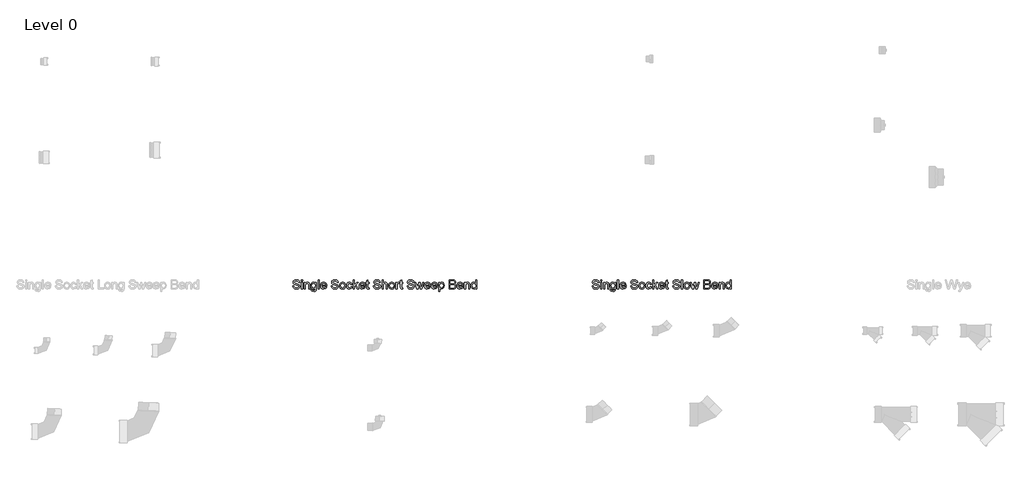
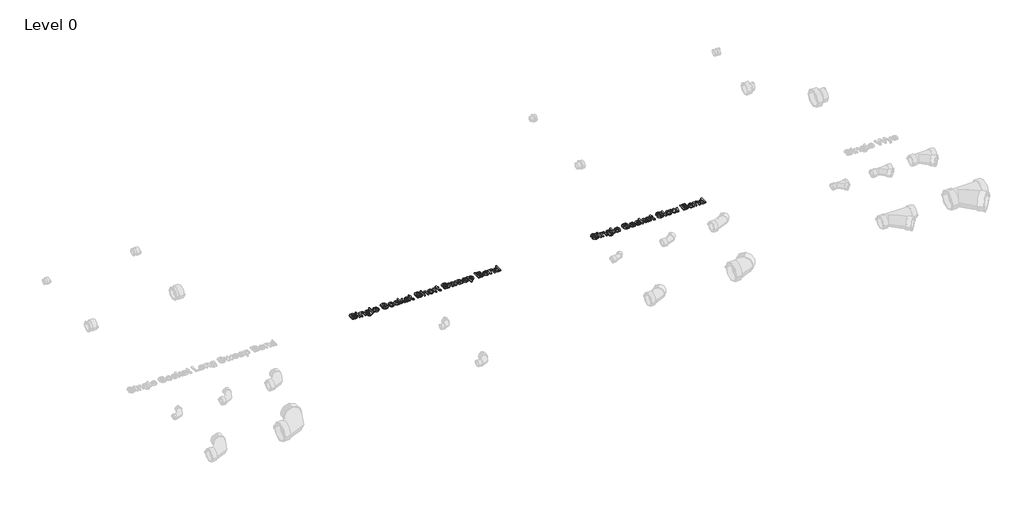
# One storey, part 3 of 10: 2 proxies.
"""IFC4 building model written with IfcOpenShell, lengths in millimetres."""

from ifc_helpers import new_model, si_unit, origin, origin_with_axes, place, context, project, spatial, polyline, outline, extrude, element, save

model = new_model("IFC4")

# Units and contexts
model_context = context("Model", 3, world=origin())
ifc_project = project(units=[si_unit("LENGTHUNIT", "METRE", prefix="MILLI")], contexts=[model_context])

# Site, building, storey
site = spatial("IfcSite", under=ifc_project)
building = spatial("IfcBuilding", under=site)
storey = spatial("IfcBuildingStorey", under=building, Name="Level 0", Elevation=0.0)

# Proxies
placement = place(None, origin())
element("IfcBuildingElementProxy", 1, Name="75mm Arial", ObjectType="75mm Arial", at=placement, inside=storey, context=model_context, shape_type="SweptSolid", body=[
    extrude(outline(polyline([(-852.0232569, -1117.9910672), (-842.7924877, -1117.9910672), (-839.8177281, -1127.2308508), (-832.5521031, -1133.072197), (-821.4823916, -1135.2987595), (-811.8369589, -1133.6130623), (-805.6079925, -1128.9796489), (-803.5617185, -1122.7867402), (-805.0941704, -1117.0265239), (-811.3682089, -1112.8348172), (-824.8087137, -1109.3101777), (-839.2768627, -1104.7578941), (-847.1284252, -1097.8889037), (-849.7155646, -1088.712221), (-846.5154444, -1078.2645047), (-837.1674877, -1070.8907066), (-823.4835935, -1068.3756825), (-808.8802281, -1071.0078941), (-799.1446512, -1078.7422691), (-795.4847954, -1090.2987595), (-804.7155646, -1090.2987595), (-809.94393, -1080.8155864), (-823.1230166, -1077.6064518), (-836.3381608, -1080.7795287), (-840.4847954, -1088.4417883), (-837.5460935, -1094.8420287), (-822.4739781, -1099.9982787), (-806.1398435, -1104.6316922), (-797.2065502, -1112.1136633), (-794.3309492, -1122.5523652), (-797.6392425, -1133.5950335), (-807.1584733, -1141.6539277), (-821.1218146, -1144.5295287), (-837.6091944, -1141.4285672), (-848.0388819, -1132.0896248), (-852.0232569, -1117.9910672)])), origin_with_axes(), (0.0, 0.0, 1.0), 10.0),
    extrude(outline(polyline([(-781.6386416, -1143.3756825), (-781.6386416, -1089.1449133), (-772.4078723, -1089.1449133), (-772.4078723, -1143.3756825), (-781.6386416, -1143.3756825)])), origin_with_axes(), (0.0, 0.0, 1.0), 10.0),
    extrude(outline(polyline([(-781.6386416, -1078.7602979), (-781.6386416, -1069.5295287), (-772.4078723, -1069.5295287), (-772.4078723, -1078.7602979), (-781.6386416, -1078.7602979)])), origin_with_axes(), (0.0, 0.0, 1.0), 10.0),
    extrude(outline(polyline([(-758.5617185, -1143.3756825), (-758.5617185, -1089.1449133), (-749.3309492, -1089.1449133), (-749.3309492, -1096.7170287), (-742.272656, -1090.1725575), (-732.6362377, -1087.9910672), (-723.9192906, -1089.7488797), (-717.9697714, -1094.3642643), (-715.2023435, -1101.1521248), (-714.7155646, -1110.0764037), (-714.7155646, -1143.3756825), (-723.9463339, -1143.3756825), (-723.9463339, -1111.3203941), (-725.0100358, -1103.1533268), (-728.7690502, -1098.8354181), (-735.1061896, -1097.2218364), (-745.1212137, -1100.8456345), (-749.3309492, -1114.6016441), (-749.3309492, -1143.3756825), (-758.5617185, -1143.3756825)])), origin_with_axes(), (0.0, 0.0, 1.0), 10.0),
    extrude(outline(polyline([(-704.3309492, -1147.9910672), (-695.10018, -1149.1449133), (-692.1073916, -1154.0127018), (-683.147055, -1156.0679902), (-673.6999396, -1153.7422691), (-669.1927281, -1147.2158268), (-668.5617185, -1136.4526056), (-675.0611175, -1141.6449133), (-682.9847954, -1143.3756825), (-692.5017726, -1141.360959), (-699.5983771, -1135.3167883), (-704.0131908, -1126.4556104), (-705.4847954, -1115.9898652), (-702.8435694, -1101.6839758), (-695.1993387, -1091.5607787), (-683.4355166, -1087.9910672), (-675.2008411, -1090.0102979), (-668.5617185, -1096.0679902), (-668.5617185, -1089.1449133), (-659.3309492, -1089.1449133), (-659.3309492, -1135.9658268), (-661.8549877, -1153.8955143), (-669.850781, -1162.2338556), (-683.3273435, -1165.2987595), (-698.678906, -1160.9808508), (-703.0170971, -1155.5744506), (-704.3309492, -1147.9910672)]), holes=[polyline([(-696.2540262, -1115.3588556), (-692.3147233, -1129.6467162), (-682.4259012, -1134.1449133), (-672.5551079, -1129.6737595), (-668.5617185, -1115.6292883), (-672.6722954, -1101.8642643), (-682.5701319, -1097.2218364), (-692.2606367, -1101.7921489), (-696.2540262, -1115.3588556)])]), origin_with_axes(), (0.0, 0.0, 1.0), 10.0),
    extrude(outline(polyline([(-645.4847954, -1143.3756825), (-645.4847954, -1069.5295287), (-636.2540262, -1069.5295287), (-636.2540262, -1143.3756825), (-645.4847954, -1143.3756825)])), origin_with_axes(), (0.0, 0.0, 1.0), 10.0),
    extrude(outline(polyline([(-584.4391223, -1127.2218364), (-575.3886416, -1128.3756825), (-583.8531848, -1140.2927498), (-599.6194108, -1144.5295287), (-610.4502401, -1142.7018544), (-618.7840742, -1137.2188316), (-624.0980767, -1128.4365299), (-625.8694108, -1116.7110191), (-624.0800478, -1104.5911272), (-618.7119589, -1095.5271248), (-610.490805, -1089.8750816), (-600.1422473, -1087.9910672), (-590.1159553, -1089.8705744), (-582.1043867, -1095.509096), (-576.8512317, -1104.5550696), (-575.10018, -1116.6569325), (-575.1542666, -1119.1449133), (-616.6386416, -1119.1449133), (-611.3291464, -1131.134096), (-599.4391223, -1135.2987595), (-590.3886416, -1133.3696729), (-584.4391223, -1127.2218364)]), holes=[polyline([(-616.6386416, -1109.9141441), (-584.3309492, -1109.9141441), (-588.0268627, -1101.5487595), (-600.178305, -1097.2218364), (-611.5454925, -1100.6743604), (-616.6386416, -1109.9141441)])]), origin_with_axes(), (0.0, 0.0, 1.0), 10.0),
    extrude(outline(polyline([(-539.3309492, -1117.9910672), (-530.10018, -1117.9910672), (-527.1254204, -1127.2308508), (-519.8597954, -1133.072197), (-508.7900839, -1135.2987595), (-499.1446512, -1133.6130623), (-492.9156848, -1128.9796489), (-490.8694108, -1122.7867402), (-492.4018627, -1117.0265239), (-498.6759012, -1112.8348172), (-512.116406, -1109.3101777), (-526.584555, -1104.7578941), (-534.4361175, -1097.8889037), (-537.0232569, -1088.712221), (-533.8231367, -1078.2645047), (-524.47518, -1070.8907066), (-510.7912858, -1068.3756825), (-496.1879204, -1071.0078941), (-486.4523435, -1078.7422691), (-482.7924877, -1090.2987595), (-492.0232569, -1090.2987595), (-497.2516223, -1080.8155864), (-510.4307089, -1077.6064518), (-523.6458531, -1080.7795287), (-527.7924877, -1088.4417883), (-524.8537858, -1094.8420287), (-509.7816704, -1099.9982787), (-493.4475358, -1104.6316922), (-484.5142425, -1112.1136633), (-481.6386416, -1122.5523652), (-484.9469348, -1133.5950335), (-494.4661656, -1141.6539277), (-508.4295069, -1144.5295287), (-524.9168867, -1141.4285672), (-535.3465742, -1132.0896248), (-539.3309492, -1117.9910672)])), origin_with_axes(), (0.0, 0.0, 1.0), 10.0),
    extrude(outline(polyline([(-471.2540262, -1116.2602979), (-469.2573315, -1103.1848772), (-463.2672473, -1093.9946729), (-455.866406, -1089.4919686), (-447.0052281, -1087.9910672), (-437.3079625, -1089.8187414), (-429.5623194, -1095.3017643), (-424.4849456, -1104.0074434), (-422.7924877, -1115.5030864), (-425.7852762, -1131.9273652), (-434.5022233, -1141.2212354), (-447.0052281, -1144.5295287), (-456.8196812, -1142.7086152), (-464.5563098, -1137.2458748), (-469.5795971, -1128.3576537), (-471.2540262, -1116.2602979)]), holes=[polyline([(-462.0232569, -1116.2422691), (-457.7504204, -1130.5481585), (-447.0052281, -1135.2987595), (-436.2960935, -1130.5211152), (-432.0232569, -1115.9538075), (-436.3231367, -1101.9724373), (-447.0052281, -1097.2218364), (-457.7504204, -1101.9544085), (-462.0232569, -1116.2422691)])]), origin_with_axes(), (0.0, 0.0, 1.0), 10.0),
    extrude(outline(polyline([(-377.7924877, -1123.7602979), (-368.5617185, -1124.9141441), (-375.9715742, -1139.3282066), (-390.6109973, -1144.5295287), (-400.4299577, -1142.715376), (-408.1079925, -1137.2729181), (-413.0636716, -1128.4410371), (-414.7155646, -1116.4586152), (-411.8940502, -1101.1250816), (-403.2942906, -1091.2723172), (-390.7371992, -1087.9910672), (-376.7017425, -1092.4982787), (-369.7155646, -1105.2987595), (-378.9463339, -1106.4526056), (-383.2281848, -1099.5385431), (-390.6650839, -1097.2218364), (-401.3652041, -1101.7831345), (-405.4847954, -1116.2062114), (-401.4553483, -1130.7645047), (-390.9174877, -1135.2987595), (-382.2185694, -1132.4682306), (-377.7924877, -1123.7602979)])), origin_with_axes(), (0.0, 0.0, 1.0), 10.0),
    extrude(outline(polyline([(-360.4847954, -1143.3756825), (-360.4847954, -1069.5295287), (-351.2540262, -1069.5295287), (-351.2540262, -1109.2110191), (-330.5569108, -1089.1449133), (-317.7924877, -1089.1449133), (-338.7420069, -1109.4634229), (-316.6386416, -1143.3756825), (-327.4198916, -1143.3756825), (-345.3585935, -1115.8816922), (-351.2540262, -1121.5968364), (-351.2540262, -1143.3756825), (-360.4847954, -1143.3756825)])), origin_with_axes(), (0.0, 0.0, 1.0), 10.0),
    extrude(outline(polyline([(-270.5929685, -1127.2218364), (-261.5424877, -1128.3756825), (-270.007031, -1140.2927498), (-285.7732569, -1144.5295287), (-296.6040863, -1142.7018544), (-304.9379204, -1137.2188316), (-310.2519228, -1128.4365299), (-312.0232569, -1116.7110191), (-310.233894, -1104.5911272), (-304.865805, -1095.5271248), (-296.6446512, -1089.8750816), (-286.2960935, -1087.9910672), (-276.2698014, -1089.8705744), (-268.2582329, -1095.509096), (-263.0050779, -1104.5550696), (-261.2540262, -1116.6569325), (-261.3081127, -1119.1449133), (-302.7924877, -1119.1449133), (-297.4829925, -1131.134096), (-285.5929685, -1135.2987595), (-276.5424877, -1133.3696729), (-270.5929685, -1127.2218364)]), holes=[polyline([(-302.7924877, -1109.9141441), (-270.4847954, -1109.9141441), (-274.1807089, -1101.5487595), (-286.3321512, -1097.2218364), (-297.6993387, -1100.6743604), (-302.7924877, -1109.9141441)])]), origin_with_axes(), (0.0, 0.0, 1.0), 10.0),
    extrude(outline(polyline([(-232.4078723, -1135.6773652), (-231.2540262, -1143.6461152), (-238.1590742, -1144.5295287), (-245.8934492, -1142.9970768), (-249.7516223, -1138.9766441), (-250.8694108, -1128.5018845), (-250.8694108, -1098.3756825), (-257.7924877, -1098.3756825), (-257.7924877, -1089.1449133), (-250.8694108, -1089.1449133), (-250.8694108, -1075.9658268), (-241.6386416, -1070.5391441), (-241.6386416, -1089.1449133), (-232.4078723, -1089.1449133), (-232.4078723, -1098.3756825), (-241.6386416, -1098.3756825), (-241.6386416, -1128.2314518), (-241.1518627, -1132.9910672), (-239.5743387, -1134.6767643), (-236.428305, -1135.2987595), (-232.4078723, -1135.6773652)])), origin_with_axes(), (0.0, 0.0, 1.0), 10.0),
    extrude(outline(polyline([(-196.6386416, -1117.9910672), (-187.4078723, -1117.9910672), (-184.4331127, -1127.2308508), (-177.1674877, -1133.072197), (-166.0977762, -1135.2987595), (-156.4523435, -1133.6130623), (-150.2233771, -1128.9796489), (-148.1771031, -1122.7867402), (-149.709555, -1117.0265239), (-155.9835935, -1112.8348172), (-169.4240983, -1109.3101777), (-183.8922473, -1104.7578941), (-191.7438098, -1097.8889037), (-194.3309492, -1088.712221), (-191.1308291, -1078.2645047), (-181.7828723, -1070.8907066), (-168.0989781, -1068.3756825), (-153.4956127, -1071.0078941), (-143.7600358, -1078.7422691), (-140.10018, -1090.2987595), (-149.3309492, -1090.2987595), (-154.5593146, -1080.8155864), (-167.7384012, -1077.6064518), (-180.9535454, -1080.7795287), (-185.10018, -1088.4417883), (-182.1614781, -1094.8420287), (-167.0893627, -1099.9982787), (-150.7552281, -1104.6316922), (-141.8219348, -1112.1136633), (-138.9463339, -1122.5523652), (-142.2546271, -1133.5950335), (-151.7738579, -1141.6539277), (-165.7371992, -1144.5295287), (-182.2245791, -1141.4285672), (-192.6542666, -1132.0896248), (-196.6386416, -1117.9910672)])), origin_with_axes(), (0.0, 0.0, 1.0), 10.0),
    extrude(outline(polyline([(-126.2540262, -1143.3756825), (-126.2540262, -1069.5295287), (-117.0232569, -1069.5295287), (-117.0232569, -1143.3756825), (-126.2540262, -1143.3756825)])), origin_with_axes(), (0.0, 0.0, 1.0), 10.0),
    extrude(outline(polyline([(-105.4847954, -1116.2602979), (-103.4881007, -1103.1848772), (-97.4980166, -1093.9946729), (-90.0971752, -1089.4919686), (-81.2359973, -1087.9910672), (-71.5387317, -1089.8187414), (-63.7930887, -1095.3017643), (-58.7157149, -1104.0074434), (-57.0232569, -1115.5030864), (-60.0160454, -1131.9273652), (-68.7329925, -1141.2212354), (-81.2359973, -1144.5295287), (-91.0504504, -1142.7086152), (-98.7870791, -1137.2458748), (-103.8103663, -1128.3576537), (-105.4847954, -1116.2602979)]), holes=[polyline([(-96.2540262, -1116.2422691), (-91.9811896, -1130.5481585), (-81.2359973, -1135.2987595), (-70.5268627, -1130.5211152), (-66.2540262, -1115.9538075), (-70.553906, -1101.9724373), (-81.2359973, -1097.2218364), (-91.9811896, -1101.9544085), (-96.2540262, -1116.2422691)])]), origin_with_axes(), (0.0, 0.0, 1.0), 10.0),
    extrude(outline(polyline([(-37.6422473, -1143.3756825), (-54.1386416, -1089.1449133), (-44.5472954, -1089.1449133), (-35.1903242, -1120.7855383), (-32.3958531, -1132.0896248), (-30.1061896, -1121.2002018), (-22.6602762, -1089.1449133), (-11.66268, -1089.1449133), (-4.2528242, -1121.1100575), (-2.2155646, -1130.9718364), (0.7051084, -1120.5691922), (10.0801084, -1089.1449133), (19.7075123, -1089.1449133), (3.0849161, -1143.3756825), (-8.0749396, -1143.3756825), (-15.1602762, -1111.5727979), (-17.2155646, -1101.6569325), (-26.3561896, -1143.3756825), (-37.6422473, -1143.3756825)])), origin_with_axes(), (0.0, 0.0, 1.0), 10.0),
    extrude(outline(polyline([(56.0536661, -1143.3756825), (56.0536661, -1069.5295287), (84.2327527, -1069.5295287), (98.0338344, -1071.7020047), (106.1828729, -1078.3816922), (109.1305892, -1087.8288075), (106.6516229, -1096.4556104), (99.1606373, -1102.9910672), (108.2561902, -1109.8780864), (111.4382815, -1121.3624614), (109.2658056, -1131.2873412), (103.884195, -1138.3546489), (95.852344, -1142.1046489), (84.0164065, -1143.3756825), (56.0536661, -1143.3756825)]), holes=[polyline([(65.2844354, -1099.5295287), (82.1414065, -1099.5295287), (91.9851565, -1098.7362595), (97.9076325, -1095.3197931), (99.89982, -1089.3071729), (98.0428488, -1083.2855383), (92.7243392, -1079.7248412), (80.8613584, -1078.7602979), (65.2844354, -1078.7602979), (65.2844354, -1099.5295287)]), polyline([(65.2844354, -1134.1449133), (84.2147238, -1134.1449133), (91.0656854, -1133.7843364), (96.8619594, -1131.77412), (100.7021036, -1127.6725575), (102.2075123, -1121.4526056), (100.4406854, -1114.2771248), (94.7165267, -1109.9952739), (83.3132815, -1108.7602979), (65.2844354, -1108.7602979), (65.2844354, -1134.1449133)])]), origin_with_axes(), (0.0, 0.0, 1.0), 10.0),
    extrude(outline(polyline([(160.9454931, -1127.2218364), (169.9959738, -1128.3756825), (161.5314306, -1140.2927498), (145.7652046, -1144.5295287), (134.9343753, -1142.7018544), (126.6005411, -1137.2188316), (121.2865387, -1128.4365299), (119.5152046, -1116.7110191), (121.3045676, -1104.5911272), (126.6726565, -1095.5271248), (134.8938104, -1089.8750816), (145.2423681, -1087.9910672), (155.2686601, -1089.8705744), (163.2802286, -1095.509096), (168.5333837, -1104.5550696), (170.2844354, -1116.6569325), (170.2303488, -1119.1449133), (128.7459738, -1119.1449133), (134.055469, -1131.134096), (145.9454931, -1135.2987595), (154.9959738, -1133.3696729), (160.9454931, -1127.2218364)]), holes=[polyline([(128.7459738, -1109.9141441), (161.0536661, -1109.9141441), (157.3577527, -1101.5487595), (145.2063104, -1097.2218364), (133.8391229, -1100.6743604), (128.7459738, -1109.9141441)])]), origin_with_axes(), (0.0, 0.0, 1.0), 10.0),
    extrude(outline(polyline([(179.5152046, -1143.3756825), (179.5152046, -1089.1449133), (188.7459738, -1089.1449133), (188.7459738, -1096.7170287), (195.8042671, -1090.1725575), (205.4406854, -1087.9910672), (214.1576325, -1089.7488797), (220.1071517, -1094.3642643), (222.8745796, -1101.1521248), (223.3613584, -1110.0764037), (223.3613584, -1143.3756825), (214.1305892, -1143.3756825), (214.1305892, -1111.3203941), (213.0668873, -1103.1533268), (209.3078729, -1098.8354181), (202.9707334, -1097.2218364), (192.9557094, -1100.8456345), (188.7459738, -1114.6016441), (188.7459738, -1143.3756825), (179.5152046, -1143.3756825)])), origin_with_axes(), (0.0, 0.0, 1.0), 10.0),
    extrude(outline(polyline([(269.5152046, -1143.3756825), (269.5152046, -1134.6677498), (263.407933, -1142.064084), (254.9659258, -1144.5295287), (243.5356373, -1140.9598172), (235.4587142, -1130.9988797), (232.5921277, -1116.3143845), (235.2333536, -1101.6208748), (243.1480171, -1091.5066922), (254.9298681, -1087.9910672), (263.4394834, -1090.5060912), (269.5152046, -1097.0415479), (269.5152046, -1069.5295287), (278.7459738, -1069.5295287), (278.7459738, -1143.3756825), (269.5152046, -1143.3756825)]), holes=[polyline([(241.8228969, -1116.2783268), (245.9875604, -1130.5661873), (255.8132815, -1135.2987595), (265.5218152, -1130.7825335), (269.5152046, -1116.9814518), (265.4496998, -1101.9994806), (255.4346758, -1097.2218364), (245.7171277, -1101.8101777), (241.8228969, -1116.2783268)])]), origin_with_axes(), (0.0, 0.0, 1.0), 10.0),
])
element("IfcBuildingElementProxy", 2, Name="75mm Arial", ObjectType="75mm Arial", at=placement, inside=storey, context=model_context, shape_type="SweptSolid", body=[
    extrude(outline(polyline([(-3283.7540262, -1117.9910672), (-3274.5232569, -1117.9910672), (-3271.5484973, -1127.2308508), (-3264.2828723, -1133.072197), (-3253.2131608, -1135.2987595), (-3243.5677281, -1133.6130623), (-3237.3387617, -1128.9796489), (-3235.2924877, -1122.7867402), (-3236.8249396, -1117.0265239), (-3243.0989781, -1112.8348172), (-3256.5394829, -1109.3101777), (-3271.0076319, -1104.7578941), (-3278.8591944, -1097.8889037), (-3281.4463339, -1088.712221), (-3278.2462137, -1078.2645047), (-3268.8982569, -1070.8907066), (-3255.2143627, -1068.3756825), (-3240.6109973, -1071.0078941), (-3230.8754204, -1078.7422691), (-3227.2155646, -1090.2987595), (-3236.4463339, -1090.2987595), (-3241.6746992, -1080.8155864), (-3254.8537858, -1077.6064518), (-3268.06893, -1080.7795287), (-3272.2155646, -1088.4417883), (-3269.2768627, -1094.8420287), (-3254.2047473, -1099.9982787), (-3237.8706127, -1104.6316922), (-3228.9373194, -1112.1136633), (-3226.0617185, -1122.5523652), (-3229.3700117, -1133.5950335), (-3238.8892425, -1141.6539277), (-3252.8525839, -1144.5295287), (-3269.3399637, -1141.4285672), (-3279.7696512, -1132.0896248), (-3283.7540262, -1117.9910672)])), origin_with_axes(), (0.0, 0.0, 1.0), 10.0),
    extrude(outline(polyline([(-3213.3694108, -1143.3756825), (-3213.3694108, -1089.1449133), (-3204.1386416, -1089.1449133), (-3204.1386416, -1143.3756825), (-3213.3694108, -1143.3756825)])), origin_with_axes(), (0.0, 0.0, 1.0), 10.0),
    extrude(outline(polyline([(-3213.3694108, -1078.7602979), (-3213.3694108, -1069.5295287), (-3204.1386416, -1069.5295287), (-3204.1386416, -1078.7602979), (-3213.3694108, -1078.7602979)])), origin_with_axes(), (0.0, 0.0, 1.0), 10.0),
    extrude(outline(polyline([(-3190.2924877, -1143.3756825), (-3190.2924877, -1089.1449133), (-3181.0617185, -1089.1449133), (-3181.0617185, -1096.7170287), (-3174.0034252, -1090.1725575), (-3164.3670069, -1087.9910672), (-3155.6500598, -1089.7488797), (-3149.7005406, -1094.3642643), (-3146.9331127, -1101.1521248), (-3146.4463339, -1110.0764037), (-3146.4463339, -1143.3756825), (-3155.6771031, -1143.3756825), (-3155.6771031, -1111.3203941), (-3156.740805, -1103.1533268), (-3160.4998194, -1098.8354181), (-3166.8369589, -1097.2218364), (-3176.8519829, -1100.8456345), (-3181.0617185, -1114.6016441), (-3181.0617185, -1143.3756825), (-3190.2924877, -1143.3756825)])), origin_with_axes(), (0.0, 0.0, 1.0), 10.0),
    extrude(outline(polyline([(-3136.0617185, -1147.9910672), (-3126.8309492, -1149.1449133), (-3123.8381608, -1154.0127018), (-3114.8778242, -1156.0679902), (-3105.4307089, -1153.7422691), (-3100.9234973, -1147.2158268), (-3100.2924877, -1136.4526056), (-3106.7918867, -1141.6449133), (-3114.7155646, -1143.3756825), (-3124.2325418, -1141.360959), (-3131.3291464, -1135.3167883), (-3135.7439601, -1126.4556104), (-3137.2155646, -1115.9898652), (-3134.5743387, -1101.6839758), (-3126.9301079, -1091.5607787), (-3115.1662858, -1087.9910672), (-3106.9316103, -1090.0102979), (-3100.2924877, -1096.0679902), (-3100.2924877, -1089.1449133), (-3091.0617185, -1089.1449133), (-3091.0617185, -1135.9658268), (-3093.5857569, -1153.8955143), (-3101.5815502, -1162.2338556), (-3115.0581127, -1165.2987595), (-3130.4096752, -1160.9808508), (-3134.7478663, -1155.5744506), (-3136.0617185, -1147.9910672)]), holes=[polyline([(-3127.9847954, -1115.3588556), (-3124.0454925, -1129.6467162), (-3114.1566704, -1134.1449133), (-3104.2858771, -1129.6737595), (-3100.2924877, -1115.6292883), (-3104.4030646, -1101.8642643), (-3114.3009012, -1097.2218364), (-3123.991406, -1101.7921489), (-3127.9847954, -1115.3588556)])]), origin_with_axes(), (0.0, 0.0, 1.0), 10.0),
    extrude(outline(polyline([(-3077.2155646, -1143.3756825), (-3077.2155646, -1069.5295287), (-3067.9847954, -1069.5295287), (-3067.9847954, -1143.3756825), (-3077.2155646, -1143.3756825)])), origin_with_axes(), (0.0, 0.0, 1.0), 10.0),
    extrude(outline(polyline([(-3016.1698916, -1127.2218364), (-3007.1194108, -1128.3756825), (-3015.5839541, -1140.2927498), (-3031.35018, -1144.5295287), (-3042.1810093, -1142.7018544), (-3050.5148435, -1137.2188316), (-3055.8288459, -1128.4365299), (-3057.60018, -1116.7110191), (-3055.810817, -1104.5911272), (-3050.4427281, -1095.5271248), (-3042.2215742, -1089.8750816), (-3031.8730166, -1087.9910672), (-3021.8467245, -1089.8705744), (-3013.835156, -1095.509096), (-3008.5820009, -1104.5550696), (-3006.8309492, -1116.6569325), (-3006.8850358, -1119.1449133), (-3048.3694108, -1119.1449133), (-3043.0599156, -1131.134096), (-3031.1698916, -1135.2987595), (-3022.1194108, -1133.3696729), (-3016.1698916, -1127.2218364)]), holes=[polyline([(-3048.3694108, -1109.9141441), (-3016.0617185, -1109.9141441), (-3019.7576319, -1101.5487595), (-3031.9090742, -1097.2218364), (-3043.2762617, -1100.6743604), (-3048.3694108, -1109.9141441)])]), origin_with_axes(), (0.0, 0.0, 1.0), 10.0),
    extrude(outline(polyline([(-2971.0617185, -1117.9910672), (-2961.8309492, -1117.9910672), (-2958.8561896, -1127.2308508), (-2951.5905646, -1133.072197), (-2940.5208531, -1135.2987595), (-2930.8754204, -1133.6130623), (-2924.6464541, -1128.9796489), (-2922.60018, -1122.7867402), (-2924.1326319, -1117.0265239), (-2930.4066704, -1112.8348172), (-2943.8471752, -1109.3101777), (-2958.3153242, -1104.7578941), (-2966.1668867, -1097.8889037), (-2968.7540262, -1088.712221), (-2965.553906, -1078.2645047), (-2956.2059492, -1070.8907066), (-2942.522055, -1068.3756825), (-2927.9186896, -1071.0078941), (-2918.1831127, -1078.7422691), (-2914.5232569, -1090.2987595), (-2923.7540262, -1090.2987595), (-2928.9823916, -1080.8155864), (-2942.1614781, -1077.6064518), (-2955.3766223, -1080.7795287), (-2959.5232569, -1088.4417883), (-2956.584555, -1094.8420287), (-2941.5124396, -1099.9982787), (-2925.178305, -1104.6316922), (-2916.2450117, -1112.1136633), (-2913.3694108, -1122.5523652), (-2916.6777041, -1133.5950335), (-2926.1969348, -1141.6539277), (-2940.1602762, -1144.5295287), (-2956.647656, -1141.4285672), (-2967.0773435, -1132.0896248), (-2971.0617185, -1117.9910672)])), origin_with_axes(), (0.0, 0.0, 1.0), 10.0),
    extrude(outline(polyline([(-2902.9847954, -1116.2602979), (-2900.9881007, -1103.1848772), (-2894.9980166, -1093.9946729), (-2887.5971752, -1089.4919686), (-2878.7359973, -1087.9910672), (-2869.0387317, -1089.8187414), (-2861.2930887, -1095.3017643), (-2856.2157149, -1104.0074434), (-2854.5232569, -1115.5030864), (-2857.5160454, -1131.9273652), (-2866.2329925, -1141.2212354), (-2878.7359973, -1144.5295287), (-2888.5504504, -1142.7086152), (-2896.2870791, -1137.2458748), (-2901.3103663, -1128.3576537), (-2902.9847954, -1116.2602979)]), holes=[polyline([(-2893.7540262, -1116.2422691), (-2889.4811896, -1130.5481585), (-2878.7359973, -1135.2987595), (-2868.0268627, -1130.5211152), (-2863.7540262, -1115.9538075), (-2868.053906, -1101.9724373), (-2878.7359973, -1097.2218364), (-2889.4811896, -1101.9544085), (-2893.7540262, -1116.2422691)])]), origin_with_axes(), (0.0, 0.0, 1.0), 10.0),
    extrude(outline(polyline([(-2809.5232569, -1123.7602979), (-2800.2924877, -1124.9141441), (-2807.7023435, -1139.3282066), (-2822.3417666, -1144.5295287), (-2832.1607269, -1142.715376), (-2839.8387617, -1137.2729181), (-2844.7944408, -1128.4410371), (-2846.4463339, -1116.4586152), (-2843.6248194, -1101.1250816), (-2835.0250598, -1091.2723172), (-2822.4679685, -1087.9910672), (-2808.4325117, -1092.4982787), (-2801.4463339, -1105.2987595), (-2810.6771031, -1106.4526056), (-2814.9589541, -1099.5385431), (-2822.3958531, -1097.2218364), (-2833.0959733, -1101.7831345), (-2837.2155646, -1116.2062114), (-2833.1861175, -1130.7645047), (-2822.6482569, -1135.2987595), (-2813.9493387, -1132.4682306), (-2809.5232569, -1123.7602979)])), origin_with_axes(), (0.0, 0.0, 1.0), 10.0),
    extrude(outline(polyline([(-2792.2155646, -1143.3756825), (-2792.2155646, -1069.5295287), (-2782.9847954, -1069.5295287), (-2782.9847954, -1109.2110191), (-2762.28768, -1089.1449133), (-2749.5232569, -1089.1449133), (-2770.4727762, -1109.4634229), (-2748.3694108, -1143.3756825), (-2759.1506608, -1143.3756825), (-2777.0893627, -1115.8816922), (-2782.9847954, -1121.5968364), (-2782.9847954, -1143.3756825), (-2792.2155646, -1143.3756825)])), origin_with_axes(), (0.0, 0.0, 1.0), 10.0),
    extrude(outline(polyline([(-2702.3237377, -1127.2218364), (-2693.2732569, -1128.3756825), (-2701.7378002, -1140.2927498), (-2717.5040262, -1144.5295287), (-2728.3348555, -1142.7018544), (-2736.6686896, -1137.2188316), (-2741.982692, -1128.4365299), (-2743.7540262, -1116.7110191), (-2741.9646632, -1104.5911272), (-2736.5965742, -1095.5271248), (-2728.3754204, -1089.8750816), (-2718.0268627, -1087.9910672), (-2708.0005706, -1089.8705744), (-2699.9890021, -1095.509096), (-2694.7358471, -1104.5550696), (-2692.9847954, -1116.6569325), (-2693.0388819, -1119.1449133), (-2734.5232569, -1119.1449133), (-2729.2137617, -1131.134096), (-2717.3237377, -1135.2987595), (-2708.2732569, -1133.3696729), (-2702.3237377, -1127.2218364)]), holes=[polyline([(-2734.5232569, -1109.9141441), (-2702.2155646, -1109.9141441), (-2705.9114781, -1101.5487595), (-2718.0629204, -1097.2218364), (-2729.4301079, -1100.6743604), (-2734.5232569, -1109.9141441)])]), origin_with_axes(), (0.0, 0.0, 1.0), 10.0),
    extrude(outline(polyline([(-2664.1386416, -1135.6773652), (-2662.9847954, -1143.6461152), (-2669.8898435, -1144.5295287), (-2677.6242185, -1142.9970768), (-2681.4823916, -1138.9766441), (-2682.60018, -1128.5018845), (-2682.60018, -1098.3756825), (-2689.5232569, -1098.3756825), (-2689.5232569, -1089.1449133), (-2682.60018, -1089.1449133), (-2682.60018, -1075.9658268), (-2673.3694108, -1070.5391441), (-2673.3694108, -1089.1449133), (-2664.1386416, -1089.1449133), (-2664.1386416, -1098.3756825), (-2673.3694108, -1098.3756825), (-2673.3694108, -1128.2314518), (-2672.8826319, -1132.9910672), (-2671.3051079, -1134.6767643), (-2668.1590742, -1135.2987595), (-2664.1386416, -1135.6773652)])), origin_with_axes(), (0.0, 0.0, 1.0), 10.0),
    extrude(outline(polyline([(-2628.3694108, -1117.9910672), (-2619.1386416, -1117.9910672), (-2616.1638819, -1127.2308508), (-2608.8982569, -1133.072197), (-2597.8285454, -1135.2987595), (-2588.1831127, -1133.6130623), (-2581.9541464, -1128.9796489), (-2579.9078723, -1122.7867402), (-2581.4403242, -1117.0265239), (-2587.7143627, -1112.8348172), (-2601.1548675, -1109.3101777), (-2615.6230166, -1104.7578941), (-2623.4745791, -1097.8889037), (-2626.0617185, -1088.712221), (-2622.8615983, -1078.2645047), (-2613.5136416, -1070.8907066), (-2599.8297473, -1068.3756825), (-2585.2263819, -1071.0078941), (-2575.490805, -1078.7422691), (-2571.8309492, -1090.2987595), (-2581.0617185, -1090.2987595), (-2586.2900839, -1080.8155864), (-2599.4691704, -1077.6064518), (-2612.6843146, -1080.7795287), (-2616.8309492, -1088.4417883), (-2613.8922473, -1094.8420287), (-2598.8201319, -1099.9982787), (-2582.4859973, -1104.6316922), (-2573.5527041, -1112.1136633), (-2570.6771031, -1122.5523652), (-2573.9853964, -1133.5950335), (-2583.5046271, -1141.6539277), (-2597.4679685, -1144.5295287), (-2613.9553483, -1141.4285672), (-2624.3850358, -1132.0896248), (-2628.3694108, -1117.9910672)])), origin_with_axes(), (0.0, 0.0, 1.0), 10.0),
    extrude(outline(polyline([(-2557.9847954, -1143.3756825), (-2557.9847954, -1069.5295287), (-2548.7540262, -1069.5295287), (-2548.7540262, -1096.680971), (-2541.5560093, -1090.1635431), (-2532.6903242, -1087.9910672), (-2522.3237377, -1090.3618604), (-2516.0316704, -1096.915346), (-2514.1386416, -1109.0487595), (-2514.1386416, -1143.3756825), (-2523.3694108, -1143.3756825), (-2523.3694108, -1110.0042883), (-2526.3081127, -1100.2687114), (-2534.6374396, -1097.2218364), (-2542.2005406, -1099.2771248), (-2547.2486175, -1104.8480383), (-2548.7540262, -1114.5655864), (-2548.7540262, -1143.3756825), (-2557.9847954, -1143.3756825)])), origin_with_axes(), (0.0, 0.0, 1.0), 10.0),
    extrude(outline(polyline([(-2503.7540262, -1116.2602979), (-2501.7573315, -1103.1848772), (-2495.7672473, -1093.9946729), (-2488.366406, -1089.4919686), (-2479.5052281, -1087.9910672), (-2469.8079625, -1089.8187414), (-2462.0623194, -1095.3017643), (-2456.9849456, -1104.0074434), (-2455.2924877, -1115.5030864), (-2458.2852762, -1131.9273652), (-2467.0022233, -1141.2212354), (-2479.5052281, -1144.5295287), (-2489.3196812, -1142.7086152), (-2497.0563098, -1137.2458748), (-2502.0795971, -1128.3576537), (-2503.7540262, -1116.2602979)]), holes=[polyline([(-2494.5232569, -1116.2422691), (-2490.2504204, -1130.5481585), (-2479.5052281, -1135.2987595), (-2468.7960935, -1130.5211152), (-2464.5232569, -1115.9538075), (-2468.8231367, -1101.9724373), (-2479.5052281, -1097.2218364), (-2490.2504204, -1101.9544085), (-2494.5232569, -1116.2422691)])]), origin_with_axes(), (0.0, 0.0, 1.0), 10.0),
    extrude(outline(polyline([(-2444.9078723, -1143.3756825), (-2444.9078723, -1089.1449133), (-2436.8309492, -1089.1449133), (-2436.8309492, -1097.1677498), (-2431.0977762, -1089.7759229), (-2425.3285454, -1087.9910672), (-2416.0617185, -1090.8396248), (-2419.1446512, -1099.1148652), (-2425.6350358, -1097.2218364), (-2430.8543867, -1099.0427498), (-2434.1807089, -1104.0908268), (-2435.6771031, -1114.8720768), (-2435.6771031, -1143.3756825), (-2444.9078723, -1143.3756825)])), origin_with_axes(), (0.0, 0.0, 1.0), 10.0),
    extrude(outline(polyline([(-2390.6771031, -1135.6773652), (-2389.5232569, -1143.6461152), (-2396.428305, -1144.5295287), (-2404.16268, -1142.9970768), (-2408.0208531, -1138.9766441), (-2409.1386416, -1128.5018845), (-2409.1386416, -1098.3756825), (-2416.0617185, -1098.3756825), (-2416.0617185, -1089.1449133), (-2409.1386416, -1089.1449133), (-2409.1386416, -1075.9658268), (-2399.9078723, -1070.5391441), (-2399.9078723, -1089.1449133), (-2390.6771031, -1089.1449133), (-2390.6771031, -1098.3756825), (-2399.9078723, -1098.3756825), (-2399.9078723, -1128.2314518), (-2399.4210935, -1132.9910672), (-2397.8435694, -1134.6767643), (-2394.6975358, -1135.2987595), (-2390.6771031, -1135.6773652)])), origin_with_axes(), (0.0, 0.0, 1.0), 10.0),
    extrude(outline(polyline([(-2354.9078723, -1117.9910672), (-2345.6771031, -1117.9910672), (-2342.7023435, -1127.2308508), (-2335.4367185, -1133.072197), (-2324.3670069, -1135.2987595), (-2314.7215742, -1133.6130623), (-2308.4926079, -1128.9796489), (-2306.4463339, -1122.7867402), (-2307.9787858, -1117.0265239), (-2314.2528242, -1112.8348172), (-2327.6933291, -1109.3101777), (-2342.1614781, -1104.7578941), (-2350.0130406, -1097.8889037), (-2352.60018, -1088.712221), (-2349.4000598, -1078.2645047), (-2340.0521031, -1070.8907066), (-2326.3682089, -1068.3756825), (-2311.7648435, -1071.0078941), (-2302.0292666, -1078.7422691), (-2298.3694108, -1090.2987595), (-2307.60018, -1090.2987595), (-2312.8285454, -1080.8155864), (-2326.0076319, -1077.6064518), (-2339.2227762, -1080.7795287), (-2343.3694108, -1088.4417883), (-2340.4307089, -1094.8420287), (-2325.3585935, -1099.9982787), (-2309.0244589, -1104.6316922), (-2300.0911656, -1112.1136633), (-2297.2155646, -1122.5523652), (-2300.5238579, -1133.5950335), (-2310.0430887, -1141.6539277), (-2324.00643, -1144.5295287), (-2340.4938098, -1141.4285672), (-2350.9234973, -1132.0896248), (-2354.9078723, -1117.9910672)])), origin_with_axes(), (0.0, 0.0, 1.0), 10.0),
    extrude(outline(polyline([(-2275.5268627, -1143.3756825), (-2292.0232569, -1089.1449133), (-2282.4319108, -1089.1449133), (-2273.0749396, -1120.7855383), (-2270.2804685, -1132.0896248), (-2267.990805, -1121.2002018), (-2260.5448916, -1089.1449133), (-2249.5472954, -1089.1449133), (-2242.1374396, -1121.1100575), (-2240.10018, -1130.9718364), (-2237.1795069, -1120.5691922), (-2227.8045069, -1089.1449133), (-2218.1771031, -1089.1449133), (-2234.7996992, -1143.3756825), (-2245.959555, -1143.3756825), (-2253.0448916, -1111.5727979), (-2255.10018, -1101.6569325), (-2264.240805, -1143.3756825), (-2275.5268627, -1143.3756825)])), origin_with_axes(), (0.0, 0.0, 1.0), 10.0),
    extrude(outline(polyline([(-2173.8621992, -1127.2218364), (-2164.8117185, -1128.3756825), (-2173.2762617, -1140.2927498), (-2189.0424877, -1144.5295287), (-2199.873317, -1142.7018544), (-2208.2071512, -1137.2188316), (-2213.5211536, -1128.4365299), (-2215.2924877, -1116.7110191), (-2213.5031247, -1104.5911272), (-2208.1350358, -1095.5271248), (-2199.9138819, -1089.8750816), (-2189.5653242, -1087.9910672), (-2179.5390322, -1089.8705744), (-2171.5274637, -1095.509096), (-2166.2743086, -1104.5550696), (-2164.5232569, -1116.6569325), (-2164.5773435, -1119.1449133), (-2206.0617185, -1119.1449133), (-2200.7522233, -1131.134096), (-2188.8621992, -1135.2987595), (-2179.8117185, -1133.3696729), (-2173.8621992, -1127.2218364)]), holes=[polyline([(-2206.0617185, -1109.9141441), (-2173.7540262, -1109.9141441), (-2177.4499396, -1101.5487595), (-2189.6013819, -1097.2218364), (-2200.9685694, -1100.6743604), (-2206.0617185, -1109.9141441)])]), origin_with_axes(), (0.0, 0.0, 1.0), 10.0),
    extrude(outline(polyline([(-2117.3237377, -1127.2218364), (-2108.2732569, -1128.3756825), (-2116.7378002, -1140.2927498), (-2132.5040262, -1144.5295287), (-2143.3348555, -1142.7018544), (-2151.6686896, -1137.2188316), (-2156.982692, -1128.4365299), (-2158.7540262, -1116.7110191), (-2156.9646632, -1104.5911272), (-2151.5965742, -1095.5271248), (-2143.3754204, -1089.8750816), (-2133.0268627, -1087.9910672), (-2123.0005706, -1089.8705744), (-2114.9890021, -1095.509096), (-2109.7358471, -1104.5550696), (-2107.9847954, -1116.6569325), (-2108.0388819, -1119.1449133), (-2149.5232569, -1119.1449133), (-2144.2137617, -1131.134096), (-2132.3237377, -1135.2987595), (-2123.2732569, -1133.3696729), (-2117.3237377, -1127.2218364)]), holes=[polyline([(-2149.5232569, -1109.9141441), (-2117.2155646, -1109.9141441), (-2120.9114781, -1101.5487595), (-2133.0629204, -1097.2218364), (-2144.4301079, -1100.6743604), (-2149.5232569, -1109.9141441)])]), origin_with_axes(), (0.0, 0.0, 1.0), 10.0),
    extrude(outline(polyline([(-2098.7540262, -1164.1449133), (-2098.7540262, -1089.1449133), (-2089.5232569, -1089.1449133), (-2089.5232569, -1098.1953941), (-2083.1410454, -1090.5421489), (-2074.5232569, -1087.9910672), (-2062.8225358, -1091.5607787), (-2055.178305, -1101.6208748), (-2052.60018, -1115.8456345), (-2055.5118387, -1130.8005623), (-2063.9673675, -1140.9868604), (-2075.6410454, -1144.5295287), (-2083.6728964, -1142.1587354), (-2089.5232569, -1136.1641441), (-2089.5232569, -1164.1449133), (-2098.7540262, -1164.1449133)]), holes=[polyline([(-2089.5232569, -1116.6929902), (-2085.5298675, -1130.7554902), (-2075.8393627, -1135.2987595), (-2065.9505406, -1130.5932306), (-2061.8309492, -1116.0078941), (-2065.8513819, -1101.9093364), (-2075.4607569, -1097.2218364), (-2085.2594348, -1102.2068123), (-2089.5232569, -1116.6929902)])]), origin_with_axes(), (0.0, 0.0, 1.0), 10.0),
    extrude(outline(polyline([(-2012.2155646, -1143.3756825), (-2012.2155646, -1069.5295287), (-1984.0364781, -1069.5295287), (-1970.2353964, -1071.7020047), (-1962.0863579, -1078.3816922), (-1959.1386416, -1087.8288075), (-1961.6176079, -1096.4556104), (-1969.1085935, -1102.9910672), (-1960.0130406, -1109.8780864), (-1956.8309492, -1121.3624614), (-1959.0034252, -1131.2873412), (-1964.3850358, -1138.3546489), (-1972.4168867, -1142.1046489), (-1984.2528242, -1143.3756825), (-2012.2155646, -1143.3756825)]), holes=[polyline([(-2002.9847954, -1099.5295287), (-1986.1278242, -1099.5295287), (-1976.2840742, -1098.7362595), (-1970.3615983, -1095.3197931), (-1968.3694108, -1089.3071729), (-1970.2263819, -1083.2855383), (-1975.5448916, -1079.7248412), (-1987.4078723, -1078.7602979), (-2002.9847954, -1078.7602979), (-2002.9847954, -1099.5295287)]), polyline([(-2002.9847954, -1134.1449133), (-1984.0545069, -1134.1449133), (-1977.2035454, -1133.7843364), (-1971.4072714, -1131.77412), (-1967.5671271, -1127.6725575), (-1966.0617185, -1121.4526056), (-1967.8285454, -1114.2771248), (-1973.5527041, -1109.9952739), (-1984.9559492, -1108.7602979), (-2002.9847954, -1108.7602979), (-2002.9847954, -1134.1449133)])]), origin_with_axes(), (0.0, 0.0, 1.0), 10.0),
    extrude(outline(polyline([(-1907.3237377, -1127.2218364), (-1898.2732569, -1128.3756825), (-1906.7378002, -1140.2927498), (-1922.5040262, -1144.5295287), (-1933.3348555, -1142.7018544), (-1941.6686896, -1137.2188316), (-1946.982692, -1128.4365299), (-1948.7540262, -1116.7110191), (-1946.9646632, -1104.5911272), (-1941.5965742, -1095.5271248), (-1933.3754204, -1089.8750816), (-1923.0268627, -1087.9910672), (-1913.0005706, -1089.8705744), (-1904.9890021, -1095.509096), (-1899.7358471, -1104.5550696), (-1897.9847954, -1116.6569325), (-1898.0388819, -1119.1449133), (-1939.5232569, -1119.1449133), (-1934.2137617, -1131.134096), (-1922.3237377, -1135.2987595), (-1913.2732569, -1133.3696729), (-1907.3237377, -1127.2218364)]), holes=[polyline([(-1939.5232569, -1109.9141441), (-1907.2155646, -1109.9141441), (-1910.9114781, -1101.5487595), (-1923.0629204, -1097.2218364), (-1934.4301079, -1100.6743604), (-1939.5232569, -1109.9141441)])]), origin_with_axes(), (0.0, 0.0, 1.0), 10.0),
    extrude(outline(polyline([(-1888.7540262, -1143.3756825), (-1888.7540262, -1089.1449133), (-1879.5232569, -1089.1449133), (-1879.5232569, -1096.7170287), (-1872.4649637, -1090.1725575), (-1862.8285454, -1087.9910672), (-1854.1115983, -1089.7488797), (-1848.1620791, -1094.3642643), (-1845.3946512, -1101.1521248), (-1844.9078723, -1110.0764037), (-1844.9078723, -1143.3756825), (-1854.1386416, -1143.3756825), (-1854.1386416, -1111.3203941), (-1855.2023435, -1103.1533268), (-1858.9613579, -1098.8354181), (-1865.2984973, -1097.2218364), (-1875.3135214, -1100.8456345), (-1879.5232569, -1114.6016441), (-1879.5232569, -1143.3756825), (-1888.7540262, -1143.3756825)])), origin_with_axes(), (0.0, 0.0, 1.0), 10.0),
    extrude(outline(polyline([(-1798.7540262, -1143.3756825), (-1798.7540262, -1134.6677498), (-1804.8612978, -1142.064084), (-1813.303305, -1144.5295287), (-1824.7335935, -1140.9598172), (-1832.8105166, -1130.9988797), (-1835.6771031, -1116.3143845), (-1833.0358771, -1101.6208748), (-1825.1212137, -1091.5066922), (-1813.3393627, -1087.9910672), (-1804.8297473, -1090.5060912), (-1798.7540262, -1097.0415479), (-1798.7540262, -1069.5295287), (-1789.5232569, -1069.5295287), (-1789.5232569, -1143.3756825), (-1798.7540262, -1143.3756825)]), holes=[polyline([(-1826.4463339, -1116.2783268), (-1822.2816704, -1130.5661873), (-1812.4559492, -1135.2987595), (-1802.7474156, -1130.7825335), (-1798.7540262, -1116.9814518), (-1802.819531, -1101.9994806), (-1812.834555, -1097.2218364), (-1822.5521031, -1101.8101777), (-1826.4463339, -1116.2783268)])]), origin_with_axes(), (0.0, 0.0, 1.0), 10.0),
])

save(model, "model.ifc")
